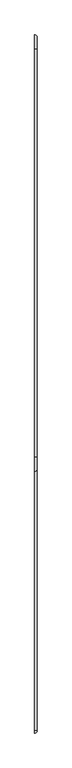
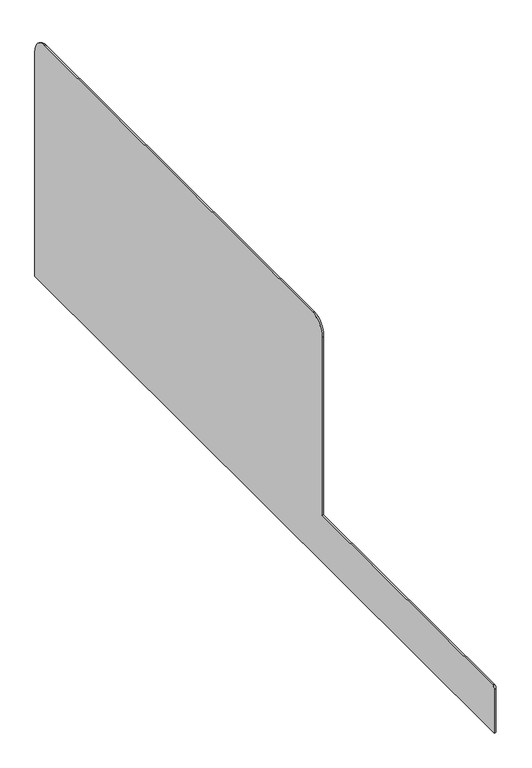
"""IFC4 building model written with IfcOpenShell, lengths in millimetres: furniture geometry, Sofa_Bensen_Neo_NEO15RIT : Sofa_Bensen_Neo_NEO15RIT."""

import ifcopenshell
import ifcopenshell.guid

model = None  # the IFC model being written
_history = None  # IfcOwnerHistory: only IFC2X3 demands one
_inside = {}  # id of a spatial element -> (the spatial element, [elements in it])
_under = {}  # id of a project, library or spatial element -> (it, [spatial elements below it])
_declared = {}  # id of a project -> (the project, [libraries it declares])
_typed = {}  # id of a type object -> (the type object, [elements of that type])
_made_of = {}  # id of a material, layer set ... -> (it, [elements and type objects made of it])


def new_model(schema):
    """Start an empty IFC model of exactly this schema.

    Asked for "IFC4X3", IfcOpenShell would pick the latest addendum, in which some entities
    have other attributes; the version numbers below select the first issue.
    IFC2X3 requires an IfcOwnerHistory on every rooted entity: one is made here for all.
    """
    global model, _history
    if schema == "IFC4X3":
        model = ifcopenshell.file(schema_version=(4, 3, 0, 0))
    else:
        model = ifcopenshell.file(schema=schema)
    _inside.clear()
    _under.clear()
    _declared.clear()
    _typed.clear()
    _made_of.clear()
    _history = None
    if model.schema == "IFC2X3":
        org = make("IfcOrganization", Name="unknown")
        user = make(
            "IfcPersonAndOrganization",
            ThePerson=make("IfcPerson", FamilyName="unknown"),
            TheOrganization=org,
        )
        app = make(
            "IfcApplication",
            ApplicationDeveloper=org,
            Version="unknown",
            ApplicationFullName="unknown",
            ApplicationIdentifier="unknown",
        )
        _history = make(
            "IfcOwnerHistory",
            OwningUser=user,
            OwningApplication=app,
            ChangeAction="ADDED",
            CreationDate=0,
        )
    return model


def make(cls, **values):
    """One entity of the class cls with the attributes given. An attribute that is None is left unset."""
    return model.create_entity(
        cls, **{name: value for name, value in values.items() if value is not None}
    )


def rooted(cls, **values):
    """An entity with a GlobalId (a new one), such as an element, a storey or a relation."""
    return make(cls, GlobalId=ifcopenshell.guid.new(), OwnerHistory=_history, **values)


def si_unit(unit_type, name, prefix=None):
    """IfcSIUnit, for example si_unit("LENGTHUNIT", "METRE", prefix="MILLI")."""
    return make("IfcSIUnit", UnitType=unit_type, Prefix=prefix, Name=name)


def assignment(units):
    """IfcUnitAssignment: the units of a project."""
    return None if units is None else make("IfcUnitAssignment", Units=units)


def point(xyz):
    """IfcCartesianPoint."""
    return None if xyz is None else make("IfcCartesianPoint", Coordinates=xyz)


def direction(xyz):
    """IfcDirection."""
    return None if xyz is None else make("IfcDirection", DirectionRatios=xyz)


def frame(location, z_axis=None, x_axis=None):
    """IfcAxis2Placement3D, a coordinate frame: its origin and axes. An axis left out is left unset."""
    return make(
        "IfcAxis2Placement3D",
        Location=point(location),
        Axis=direction(z_axis),
        RefDirection=direction(x_axis),
    )


def origin():
    """The frame at (0, 0, 0) with its axes left unset."""
    return frame((0.0, 0.0, 0.0))


def place(relative_to, where):
    """IfcLocalPlacement: puts the frame where relative to a parent placement (None: the world)."""
    return make(
        "IfcLocalPlacement", PlacementRelTo=relative_to, RelativePlacement=where
    )


def context(
    kind, dimensions, precision=None, world=None, true_north=None, identifier=None
):
    """IfcGeometricRepresentationContext, for example the 3D "Model" context."""
    return make(
        "IfcGeometricRepresentationContext",
        ContextIdentifier=identifier,
        ContextType=kind,
        CoordinateSpaceDimension=dimensions,
        Precision=precision,
        WorldCoordinateSystem=world,
        TrueNorth=true_north,
    )


def project(units=None, contexts=None):
    """IfcProject with its units and contexts."""
    return rooted(
        "IfcProject",
        Name="project",
        RepresentationContexts=contexts,
        UnitsInContext=assignment(units),
    )


def spatial(cls, under=None, at=None, **own):
    """A site, building, storey or space (cls), placed at a placement, below another one or the project."""
    s = rooted(cls, ObjectPlacement=at, **own)
    if under is not None:
        _under.setdefault(under.id(), (under, []))[1].append(s)
    return s


def circle_curve(where, radius):
    """IfcCircle in the frame where."""
    return make("IfcCircle", Position=where, Radius=radius)


def ellipse_curve(where, semi_axis1, semi_axis2):
    """IfcEllipse in the frame where."""
    return make(
        "IfcEllipse", Position=where, SemiAxis1=semi_axis1, SemiAxis2=semi_axis2
    )


def trimmed(basis, trim1, trim2, sense, master):
    """IfcTrimmedCurve: the piece of a basis curve between two trims."""
    return make(
        "IfcTrimmedCurve",
        BasisCurve=basis,
        Trim1=trim1,
        Trim2=trim2,
        SenseAgreement=sense,
        MasterRepresentation=master,
    )


def shape(context_of_items, identifier, shape_type, items):
    """IfcShapeRepresentation: the items that make up one representation, for example the "Body"."""
    return make(
        "IfcShapeRepresentation",
        ContextOfItems=context_of_items,
        RepresentationIdentifier=identifier,
        RepresentationType=shape_type,
        Items=items,
    )


def source(mapping_origin, context_of_items, identifier, shape_type, items):
    """IfcRepresentationMap: a shape defined once, which mapped items show again and again."""
    return make(
        "IfcRepresentationMap",
        MappingOrigin=mapping_origin,
        MappedRepresentation=shape(context_of_items, identifier, shape_type, items),
    )


def transform(
    local_origin,
    x_axis=None,
    y_axis=None,
    z_axis=None,
    scale=None,
    scale2=None,
    scale3=None,
    uniform=True,
):
    """IfcCartesianTransformationOperator3D, or its non-uniform kind. x_axis, y_axis, z_axis: its Axis1, 2, 3."""
    if uniform:
        return make(
            "IfcCartesianTransformationOperator3D",
            Axis1=direction(x_axis),
            Axis2=direction(y_axis),
            LocalOrigin=point(local_origin),
            Scale=scale,
            Axis3=direction(z_axis),
        )
    return make(
        "IfcCartesianTransformationOperator3DnonUniform",
        Axis1=direction(x_axis),
        Axis2=direction(y_axis),
        LocalOrigin=point(local_origin),
        Scale=scale,
        Axis3=direction(z_axis),
        Scale2=scale2,
        Scale3=scale3,
    )


def mapped(mapping_source, mapping_target):
    """IfcMappedItem: shows the shape of a source again, moved by a transform."""
    return make(
        "IfcMappedItem", MappingSource=mapping_source, MappingTarget=mapping_target
    )


def made_of(thing, what):
    """Note that an element or type object is made of a material, layer set ...; save() writes the relation."""
    if what is not None:
        _made_of.setdefault(what.id(), (what, []))[1].append(thing)
    return thing


def element(
    cls,
    number,
    at=None,
    inside=None,
    cuts=None,
    type_object=None,
    material=None,
    context=None,
    identifier="Body",
    shape_type=None,
    held_by="IfcProductDefinitionShape",
    body=None,
    shapes=None,
    **own,
):
    """One element of the class cls, such as IfcWall. Its Tag is "e" and its number.

    at: its placement. inside: the storey or other place that contains it. cuts: it is an
    opening in that element (IfcRelVoidsElement). A single representation is given by context,
    identifier, shape_type and body (its items); several are given by shapes. held_by: the class
    of the entity that holds the representations. save() writes the other relations.
    """
    e = rooted(cls, Tag="e%d" % number, ObjectPlacement=at, **own)
    if body is not None:
        shapes = [shape(context, identifier, shape_type, body)]
    if shapes is not None:
        e.Representation = make(held_by, Representations=shapes)
    if inside is not None:
        _inside.setdefault(inside.id(), (inside, []))[1].append(e)
    if cuts is not None:
        rooted(
            "IfcRelVoidsElement", RelatingBuildingElement=cuts, RelatedOpeningElement=e
        )
    if type_object is not None:
        _typed.setdefault(type_object.id(), (type_object, []))[1].append(e)
    return made_of(e, material)


def aggregate(whole, parts):
    """IfcRelAggregates: a whole, such as a stair, and the parts it consists of."""
    return rooted("IfcRelAggregates", RelatingObject=whole, RelatedObjects=parts)


def save(model, path):
    """Write the relations noted so far, then the file.

    IfcRelAggregates (storeys below a building ...), IfcRelContainedInSpatialStructure (elements
    in a storey), IfcRelDefinesByType, IfcRelAssociatesMaterial and IfcRelDeclares: one each for
    every whole, place, type object, material and project.
    """
    for whole, parts in _under.values():
        aggregate(whole, parts)
    for where, things in _inside.values():
        rooted(
            "IfcRelContainedInSpatialStructure",
            RelatedElements=things,
            RelatingStructure=where,
        )
    for kind, things in _typed.values():
        rooted("IfcRelDefinesByType", RelatedObjects=things, RelatingType=kind)
    for what, things in _made_of.values():
        rooted("IfcRelAssociatesMaterial", RelatedObjects=things, RelatingMaterial=what)
    for by, libraries in _declared.values():
        rooted("IfcRelDeclares", RelatingContext=by, RelatedDefinitions=libraries)
    model.write(path)


def plane_surface(at):
    """IfcPlane: the flat surface through the origin of the frame at, square to its z axis."""
    return make("IfcPlane", Position=at)


def cylinder_surface(at, radius):
    """IfcCylindricalSurface: all points at the distance radius from the z axis of the frame at."""
    return make("IfcCylindricalSurface", Position=at, Radius=radius)


def revolved_surface(curve, axis_point, axis_direction):
    """IfcSurfaceOfRevolution: the curve turned about the line through axis_point along axis_direction."""
    return make(
        "IfcSurfaceOfRevolution",
        SweptCurve=make("IfcArbitraryOpenProfileDef", ProfileType="CURVE", Curve=curve),
        AxisPosition=make("IfcAxis1Placement", Location=point(axis_point), Axis=direction(axis_direction)),
    )


def advanced_brep(points, edges, surfaces, faces):
    """IfcAdvancedBrep: a solid bounded by faces that lie on surfaces and meet in shared edges.

    An edge is (start, end): straight between two places in points (the first is 0);
    or (start, end, curve); or (start, end, curve, False) where it runs against its curve.
    A face is (place in surfaces, loops), or (place, loops, False) where it looks against
    its surface's normal. A loop lists edges by number (the first is 1), with a minus sign
    where the edge is run from its end to its start. The first loop is the outer one.
    """
    corners = [point(p) for p in points]
    vertices = [make("IfcVertexPoint", VertexGeometry=c) for c in corners]
    made = []
    for start, end, *more in edges:
        made.append(
            make(
                "IfcEdgeCurve",
                EdgeStart=vertices[start],
                EdgeEnd=vertices[end],
                EdgeGeometry=more[0] if more else make("IfcPolyline", Points=[corners[start], corners[end]]),
                SameSense=more[1] if len(more) > 1 else True,
            )
        )
    hull = []
    for where, loops, *sense in faces:
        bounds = []
        for j, loop in enumerate(loops):
            ring = [make("IfcOrientedEdge", EdgeElement=made[abs(k) - 1], Orientation=k > 0) for k in loop]
            bounds.append(
                make(
                    "IfcFaceOuterBound" if j == 0 else "IfcFaceBound",
                    Bound=make("IfcEdgeLoop", EdgeList=ring),
                    Orientation=True,
                )
            )
        hull.append(make("IfcAdvancedFace", Bounds=bounds, FaceSurface=surfaces[where], SameSense=sense[0] if sense else True))
    return make("IfcAdvancedBrep", Outer=make("IfcClosedShell", CfsFaces=hull))


def furniture_9e7daefd(model_context):
    return source(origin(), model_context, "Body", "AdvancedBrep", [
        advanced_brep(
        [(445.0, -419.9987249, 629.5427565), (445.0, 419.998725, 629.5427565), (445.0, 449.998725, 599.5427565), (445.0, 449.998725, 170.0), (445.0, -989.9987249, 170.0), (445.0, -989.9987249, 253.4004127), (445.0, -983.9987249, 259.4004127), (445.0, -449.9987249, 259.4004127), (445.0, -449.9987249, 599.5427565), (450.0, 444.998725, 170.0), (450.0, 444.998725, 599.5427565), (450.0, 419.998725, 624.5427565), (450.0, -419.9987249, 624.5427565), (450.0, -444.9987249, 599.5427565), (450.0, -444.9987249, 254.4004127), (450.0, -983.9987249, 254.4004127), (450.0, -984.9987249, 253.4004127), (450.0, -984.9987249, 170.0)],
        [
            (0, 1),
            (1, 2, circle_curve(frame((445.0, 419.998725, 599.5427565), z_axis=(-1.0, 0.0, 0.0), x_axis=(0.0, 1.0, 0.0)), 30.0)),
            (2, 3),
            (3, 4),
            (4, 5),
            (5, 6, circle_curve(frame((445.0, -983.9987249, 253.4004127), z_axis=(-1.0, 0.0, 0.0), x_axis=(0.0, 0.0, 1.0)), 6.0)),
            (6, 7),
            (7, 8),
            (8, 0, circle_curve(frame((445.0, -419.9987249, 599.5427565), z_axis=(-1.0, 0.0, 0.0), x_axis=(0.0, 0.0, 1.0)), 30.0)),
            (9, 10),
            (10, 11, circle_curve(frame((450.0, 419.998725, 599.5427565), z_axis=(1.0, 0.0, 0.0), x_axis=(0.0, 1.0, 0.0)), 25.0)),
            (11, 12),
            (12, 13, circle_curve(frame((450.0, -419.9987249, 599.5427565), z_axis=(1.0, 0.0, 0.0), x_axis=(0.0, 0.0, 1.0)), 25.0)),
            (13, 14),
            (14, 15),
            (15, 16, circle_curve(frame((450.0, -983.9987249, 253.4004127), z_axis=(1.0, 0.0, 0.0), x_axis=(0.0, 0.0, 1.0)), 1.0)),
            (16, 17),
            (17, 9),
            (17, 4, circle_curve(frame((445.0, -984.9987249, 170.0), z_axis=(0.0, 0.0, -1.0), x_axis=(-1.0, 0.0, 0.0)), 5.0)),
            (3, 9, circle_curve(frame((445.0, 444.998725, 170.0), z_axis=(0.0, 0.0, -1.0), x_axis=(-1.0, 0.0, 0.0)), 5.0)),
            (11, 1, circle_curve(frame((445.0, 419.998725, 624.5427565), z_axis=(0.0, -1.0, 0.0), x_axis=(-1.0, 0.0, 0.0)), 5.0)),
            (0, 12, circle_curve(frame((445.0, -419.9987249, 624.5427565), z_axis=(0.0, 1.0, 0.0), x_axis=(-1.0, 0.0, 0.0)), 5.0)),
            (8, 13, circle_curve(frame((445.0, -444.9987249, 599.5427565), z_axis=(0.0, 0.0, 1.0), x_axis=(-1.0, 0.0, 0.0)), 5.0)),
            (7, 14, ellipse_curve(frame((445.0, -444.9987249, 254.4004127), z_axis=(0.0, 0.707106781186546, 0.7071067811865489), x_axis=(0.0, -0.7071067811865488, 0.7071067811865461)), 7.0710678, 5.0)),
            (2, 10, circle_curve(frame((445.0, 444.998725, 599.5427565), z_axis=(0.0, 0.0, -1.0), x_axis=(-1.0, 0.0, 0.0)), 5.0)),
            (6, 15, circle_curve(frame((445.0, -983.9987249, 254.4004127), z_axis=(0.0, 1.0, 0.0), x_axis=(-1.0, 0.0, 0.0)), 5.0)),
            (5, 16, circle_curve(frame((445.0, -984.9987249, 253.4004127), z_axis=(0.0, 0.0, 1.0), x_axis=(-1.0, 0.0, 0.0)), 5.0)),
        ],
        [
            plane_surface(frame((445.0, 444.998725, 599.5427565), z_axis=(-1.0, 0.0, 0.0), x_axis=(0.0, 0.0, -1.0))),
            plane_surface(frame((450.0, 444.998725, 599.5427565), z_axis=(1.0, 0.0, 0.0), x_axis=(0.0, 0.0, 1.0))),
            plane_surface(frame((445.0, 444.998725, 170.0), z_axis=(0.0, 0.0, -1.0), x_axis=(1.0, 0.0, 0.0))),
            cylinder_surface(frame((445.0, 419.998725, 624.5427565), z_axis=(0.0, 1.0, 0.0), x_axis=(-1.0, 0.0, 0.0)), 5.0),
            revolved_surface(trimmed(ellipse_curve(frame((445.0, -419.9987249, 624.5427565), z_axis=(0.0, 1.0, 0.0), x_axis=(-1.0, 0.0, 0.0)), 5.0, 5.0), [point((445.0, -419.9987249, 629.5427565))], [point((450.0, -419.9987249, 624.5427565))], True, "CARTESIAN"), (-35.0, -419.9987249, 599.5427565), (1.0, 0.0, 0.0)),
            cylinder_surface(frame((445.0, -444.9987249, 599.5427565), z_axis=(0.0, 0.0, 1.0), x_axis=(-1.0, 0.0, 0.0)), 5.0),
            cylinder_surface(frame((445.0, 444.998725, 170.0), z_axis=(0.0, 0.0, -1.0), x_axis=(-1.0, 0.0, 0.0)), 5.0),
            revolved_surface(trimmed(ellipse_curve(frame((445.0, 444.998725, 599.5427565), z_axis=(0.0, 0.0, -1.0), x_axis=(-1.0, 0.0, 0.0)), 5.0, 5.0), [point((445.0, 449.998725, 599.5427565))], [point((450.0, 444.998725, 599.5427565))], True, "CARTESIAN"), (-35.0, 419.998725, 599.5427565), (1.0, 0.0, 0.0)),
            cylinder_surface(frame((445.0, -449.9987249, 254.4004127), z_axis=(0.0, 1.0, 0.0), x_axis=(-1.0, 0.0, 0.0)), 5.0),
            revolved_surface(trimmed(ellipse_curve(frame((445.0, -983.9987249, 254.4004127), z_axis=(0.0, 1.0, 0.0), x_axis=(-1.0, 0.0, 0.0)), 5.0, 5.0), [point((445.0, -983.9987249, 259.4004127))], [point((450.0, -983.9987249, 254.4004127))], True, "CARTESIAN"), (-35.0, -983.9987249, 253.4004127), (1.0, 0.0, 0.0)),
            cylinder_surface(frame((445.0, -984.9987249, 253.4004127), z_axis=(0.0, 0.0, 1.0), x_axis=(-1.0, 0.0, 0.0)), 5.0),
        ],
        [
            (0, [[1, 2, 3, 4, 5, 6, 7, 8, 9]]),
            (1, [[10, 11, 12, 13, 14, 15, 16, 17, 18]]),
            (2, [[-18, 19, -4, 20]]),
            (3, [[21, -1, 22, -12]]),
            (4, [[-22, -9, 23, -13]]),
            (5, [[-23, -8, 24, -14]]),
            (6, [[-20, -3, 25, -10]]),
            (7, [[-21, -11, -25, -2]]),
            (8, [[-24, -7, 26, -15]]),
            (9, [[-6, 27, -16, -26]]),
            (10, [[-5, -19, -17, -27]]),
        ],
    ),
    ])


if __name__ == "__main__":
    model = new_model("IFC4")
    model_context = context("Model", 3, world=origin())
    ifc_project = project(units=[si_unit("LENGTHUNIT", "METRE", prefix="MILLI")], contexts=[model_context])
    site = spatial("IfcSite", under=ifc_project)
    building = spatial("IfcBuilding", under=site)
    placement = place(None, origin())
    furniture_shape = furniture_9e7daefd(model_context)
    element("IfcFurniture", 1, ObjectType="Sofa_Bensen_Neo_NEO15RIT : Sofa_Bensen_Neo_NEO15RIT", at=placement, inside=building, context=model_context, shape_type="MappedRepresentation", body=[
        mapped(furniture_shape, transform((0.0, 0.0, 0.0), x_axis=(1.0, 0.0, 0.0), y_axis=(0.0, 1.0, 0.0), z_axis=(0.0, 0.0, 1.0))),
    ])
    save(model, "model.ifc")
